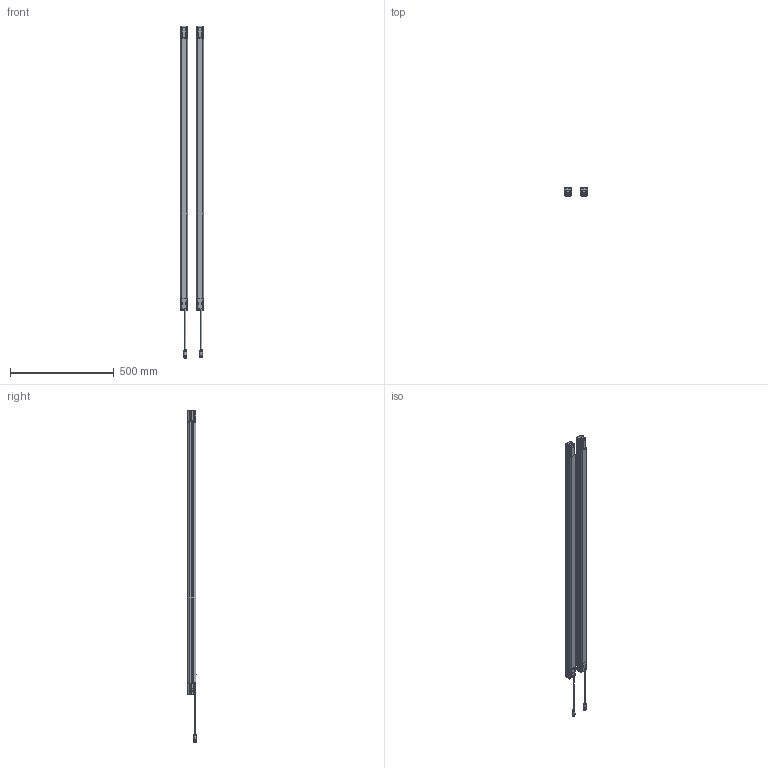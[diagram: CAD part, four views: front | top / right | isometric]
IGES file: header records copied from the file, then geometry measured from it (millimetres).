
Global section: file name: \\bamberg.wienet.ads\dfs\Department\RD\30_Gruppe_RD-PDM\Team\Mitarbeiter\Kötzner_Renate\3-Daten für TC\in Arbeit\P0882-01_Datasensing\R1_620_05_08_09_1200_0\R1_620_1200_0_E_AA.igs; native system: NX V2212; preprocessor: SIEMENS PLM Software NX2212.5000; date: 20240207.113547; units: millimetre
Bounding box: 112.18 x 43.27 x 1602.24 mm (x, y, z)
Surface area: 667787.5 mm2 (no closed solid volume)
Topology: 0 solids, 0 shells, 2661 faces, 17149 edges, 16849 vertices
Faces by surface type: bspline 2661
